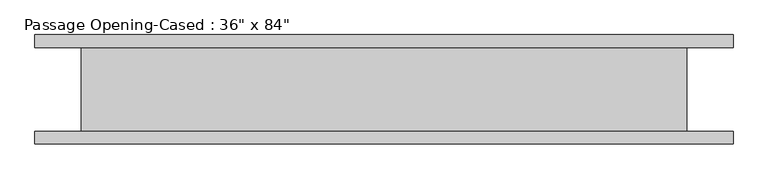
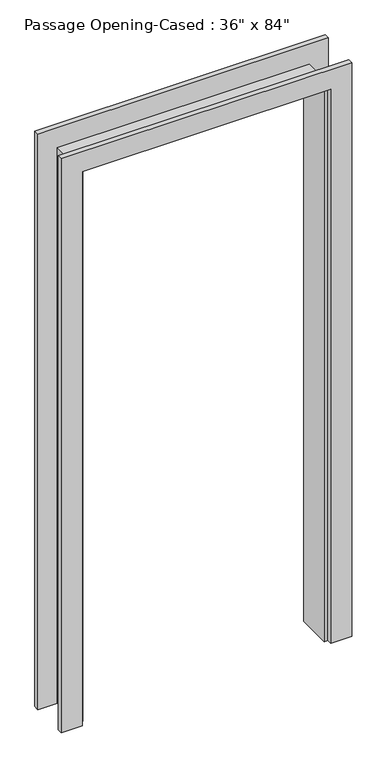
"""IFC4 building model written with IfcOpenShell, lengths in millimetres: proxy geometry."""

from ifc_helpers import new_model, si_unit, frame, origin, place, context, project, spatial, polyline, outline, extrude, faceted_brep, source, transform, mapped, element, save


def proxy_c0fc0f5a(model_context):
    return source(origin(), model_context, "Body", "SolidModel", [
        extrude(outline(polyline([(0.0, -459.0386567), (2127.25, -459.0386567), (2127.25, 442.6613433), (0.0, 442.6613433), (0.0, 518.8613433), (2203.45, 518.8613433), (2203.45, -535.2386567), (0.0, -535.2386567), (0.0, -459.0386567)])), frame((0.0, -82.55, 0.0), z_axis=(0.0, 1.0, 0.0), x_axis=(0.0, 0.0, 1.0)), (0.0, 0.0, 1.0), 19.05),
        extrude(outline(polyline([(0.0, 518.8613433), (2209.8, 518.8613433), (2209.8, -535.2386567), (0.0, -535.2386567), (0.0, -459.0386567), (2127.25, -459.0386567), (2127.25, 442.6613433), (0.0, 442.6613433), (0.0, 518.8613433)])), frame((0.0, 63.5, 0.0), z_axis=(0.0, 1.0, 0.0), x_axis=(0.0, 0.0, 1.0)), (0.0, 0.0, 1.0), 19.05),
        faceted_brep([(429.9613433, 63.5, 0.0), (449.0113433, 63.5, 0.0), (449.0113433, -63.5, 0.0), (429.9613433, -63.5, 0.0), (429.9613433, 63.5, 2114.55), (449.0113433, 63.5, 2133.6), (449.0113433, -63.5, 2133.6), (429.9613433, -63.5, 2114.55), (-446.3386567, 63.5, 2114.55), (-465.3886567, 63.5, 2133.6), (-465.3886567, -63.5, 2133.6), (-446.3386567, -63.5, 2114.55), (-446.3386567, 63.5, 0.0), (-446.3386567, -63.5, 0.0), (-465.3886567, -63.5, 0.0), (-465.3886567, 63.5, 0.0)], [[[0, 1, 2, 3]], [[1, 0, 4, 5]], [[2, 1, 5, 6]], [[3, 2, 6, 7]], [[0, 3, 7, 4]], [[5, 4, 8, 9]], [[6, 5, 9, 10]], [[7, 6, 10, 11]], [[4, 7, 11, 8]], [[12, 13, 14, 15]], [[9, 8, 12, 15]], [[10, 9, 15, 14]], [[11, 10, 14, 13]], [[8, 11, 13, 12]]]),
    ])


if __name__ == "__main__":
    model = new_model("IFC4")
    model_context = context("Model", 3, world=origin())
    ifc_project = project(units=[si_unit("LENGTHUNIT", "METRE", prefix="MILLI")], contexts=[model_context])
    site = spatial("IfcSite", under=ifc_project)
    building = spatial("IfcBuilding", under=site)
    placement = place(None, origin())
    proxy_shape = proxy_c0fc0f5a(model_context)
    element("IfcBuildingElementProxy", 1, Name="Passage Opening-Cased : 36\" x 84\"", ObjectType="Passage Opening-Cased : 36\" x 84\"", at=placement, inside=building, context=model_context, shape_type="MappedRepresentation", body=[
        mapped(proxy_shape, transform((0.0, 0.0, 0.0), x_axis=(1.0, 0.0, 0.0), y_axis=(0.0, 1.0, 0.0), z_axis=(0.0, 0.0, 1.0))),
    ])
    save(model, "model.ifc")
